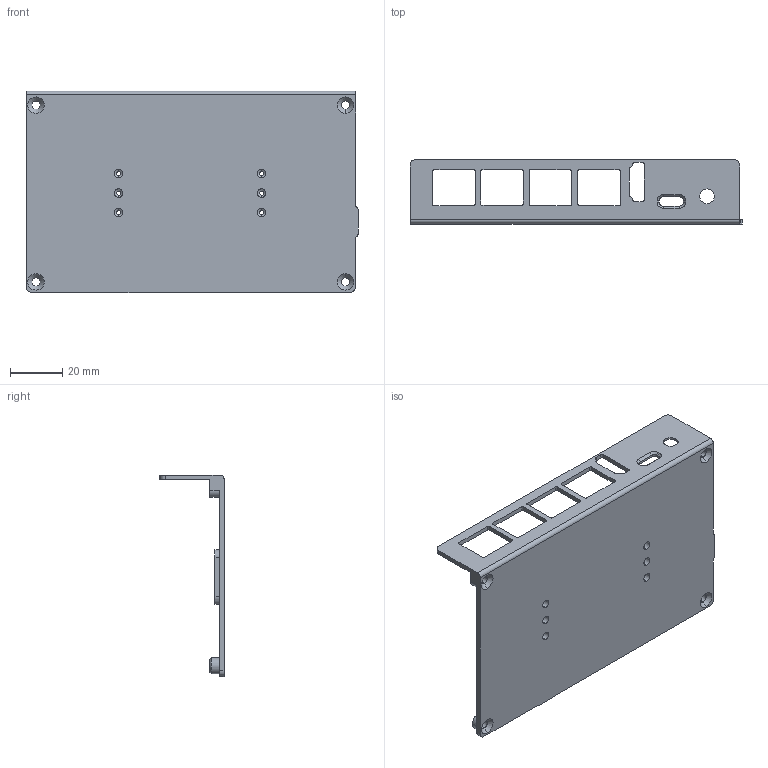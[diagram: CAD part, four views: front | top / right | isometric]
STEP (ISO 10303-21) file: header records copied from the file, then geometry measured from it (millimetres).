
FILE_DESCRIPTION (( 'STEP AP214' ), '1' );
FILE_NAME ('LubanCat 2N菁裔.STEP', '2023-03-11T08:42:01', ( '' ), ( '' ), 'SwSTEP 2.0', 'SolidWorks 2021', '' );
FILE_SCHEMA (( 'AUTOMOTIVE_DESIGN' ));
Length unit declared in the file: millimetre
Products named in the file (1): LubanCat 2N菁裔
Bounding box: 127.69 x 24.65 x 77.64 mm (x, y, z)
Volume: 21211.1 mm3; surface area: 25301.8 mm2
Topology: 1 solids, 1 shells, 171 faces, 463 edges, 298 vertices
Faces by surface type: cylinder 83, plane 60, cone 28
Entity records: 5649 total; most frequent: DIRECTION 1001, CARTESIAN_POINT 933, ORIENTED_EDGE 926, EDGE_CURVE 463, AXIS2_PLACEMENT_3D 366, VERTEX_POINT 298, VECTOR 269, LINE 269
